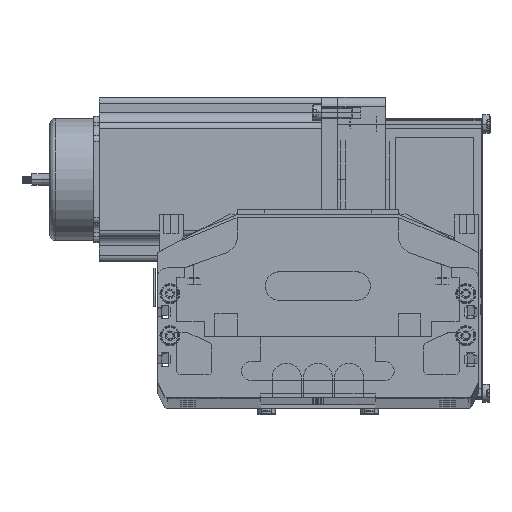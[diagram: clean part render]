
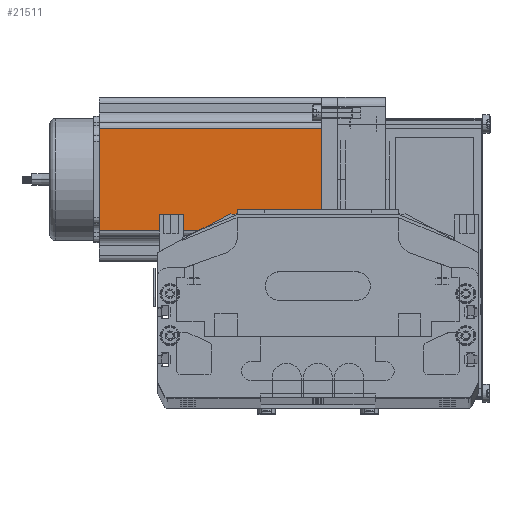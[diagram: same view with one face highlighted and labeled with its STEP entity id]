
A CAD part, top view. The second image highlights one B-rep face of the part: STEP entity #21511.
In plain terms, the highlighted planar face has unit normal (0, 0, 1) as drawn and (0, -1, 0) by its records, which use the part's own axes.
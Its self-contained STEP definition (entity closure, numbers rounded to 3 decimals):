
#9479 = CARTESIAN_POINT ( 'NONE',  ( 69.74, 0., 0. ) ) ;
#21511 = ADVANCED_FACE ( 'NONE', ( #46997 ), #46857, .F. ) ;
#21514 = VERTEX_POINT ( 'NONE', #46780 ) ;
#21521 = ORIENTED_EDGE ( 'NONE', *, *, #23392, .T. ) ;
#21525 = EDGE_CURVE ( 'NONE', #21959, #23015, #46966, .T. ) ;
#21541 = ORIENTED_EDGE ( 'NONE', *, *, #21525, .T. ) ;
#21543 = EDGE_CURVE ( 'NONE', #21514, #23015, #46709, .T. ) ;
#21556 = ORIENTED_EDGE ( 'NONE', *, *, #21543, .F. ) ;
#21558 = EDGE_CURVE ( 'NONE', #21514, #23363, #46935, .T. ) ;
#21568 = ORIENTED_EDGE ( 'NONE', *, *, #21558, .T. ) ;
#21959 = VERTEX_POINT ( 'NONE', #9479 ) ;
#23015 = VERTEX_POINT ( 'NONE', #31186 ) ;
#23363 = VERTEX_POINT ( 'NONE', #32357 ) ;
#23378 = EDGE_LOOP ( 'NONE', ( #21521, #21541, #21556, #21568 ) ) ;
#23392 = EDGE_CURVE ( 'NONE', #23363, #21959, #32120, .T. ) ;
#31186 = CARTESIAN_POINT ( 'NONE',  ( 69.74, 0., 116.5 ) ) ;
#32097 = DIRECTION ( 'NONE',  ( 1., 0., 0. ) ) ;
#32098 = VECTOR ( 'NONE', #32097, 1000. ) ;
#32119 = CARTESIAN_POINT ( 'NONE',  ( 0., 0., 0. ) ) ;
#32120 = LINE ( 'NONE', #32119, #32098 ) ;
#32357 = CARTESIAN_POINT ( 'NONE',  ( 16.16, 0., 0. ) ) ;
#46709 = LINE ( 'NONE', #46722, #46720 ) ;
#46710 = DIRECTION ( 'NONE',  ( 0., 0., 1. ) ) ;
#46712 = VECTOR ( 'NONE', #46710, 1000. ) ;
#46714 = CARTESIAN_POINT ( 'NONE',  ( 69.74, 0., 116.5 ) ) ;
#46718 = DIRECTION ( 'NONE',  ( 1., 0., 0. ) ) ;
#46720 = VECTOR ( 'NONE', #46718, 1000. ) ;
#46722 = CARTESIAN_POINT ( 'NONE',  ( 0., 0., 116.5 ) ) ;
#46780 = CARTESIAN_POINT ( 'NONE',  ( 16.16, 0., 116.5 ) ) ;
#46783 = AXIS2_PLACEMENT_3D ( 'NONE', #46852, #47083, #46838 ) ;
#46838 = DIRECTION ( 'NONE',  ( 0., 0., 1. ) ) ;
#46852 = CARTESIAN_POINT ( 'NONE',  ( 0., 0., 116.5 ) ) ;
#46857 = PLANE ( 'NONE',  #46783 ) ;
#46932 = DIRECTION ( 'NONE',  ( 0., 0., -1. ) ) ;
#46933 = VECTOR ( 'NONE', #46932, 1000. ) ;
#46934 = CARTESIAN_POINT ( 'NONE',  ( 16.16, 0., 116.5 ) ) ;
#46935 = LINE ( 'NONE', #46934, #46933 ) ;
#46966 = LINE ( 'NONE', #46714, #46712 ) ;
#46997 = FACE_OUTER_BOUND ( 'NONE', #23378, .T. ) ;
#47083 = DIRECTION ( 'NONE',  ( 0., 1., 0. ) ) ;
